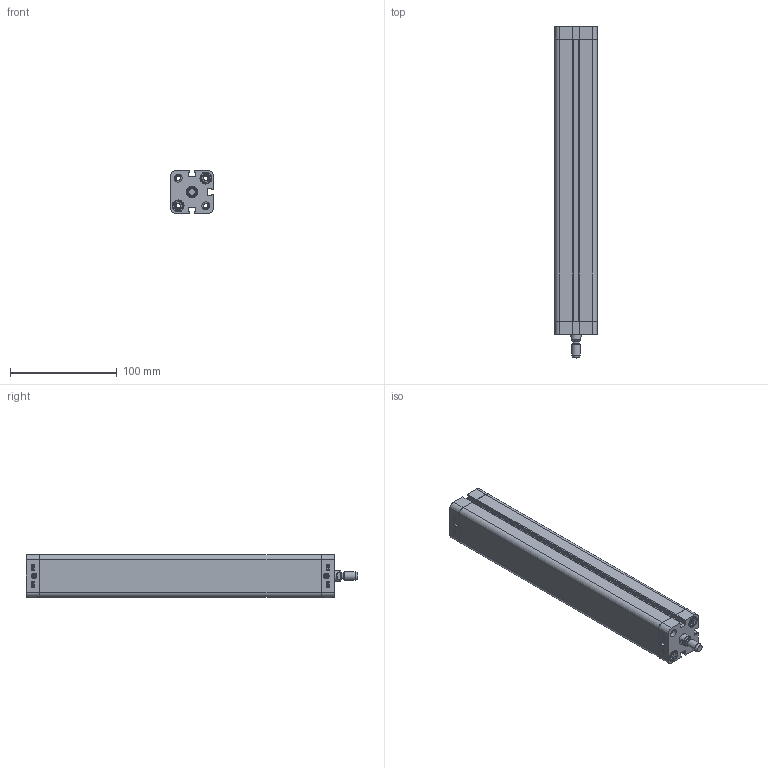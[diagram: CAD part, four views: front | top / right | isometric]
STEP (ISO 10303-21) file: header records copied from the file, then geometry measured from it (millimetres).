
FILE_DESCRIPTION((''),'2;1');
FILE_NAME('T:\Archivio Inventor\- CATALOGHI 2012\SERIE P - NUOVA\PDM\PDM025\PDM025.---.GS.M\PDM025.250.GS.M.stp','2013-01-31T08:10:08',('Administrator'),(''),'Autodesk Inventor 2012','Autodesk Inventor 2012','');
FILE_SCHEMA(('CONFIG_CONTROL_DESIGN'));
Length unit declared in the file: millimetre
Products named in the file (1): PDM025.250.GS.M
Bounding box: 40.3 x 311 x 40.3 mm (x, y, z)
Volume: 216204.6 mm3; surface area: 114136.5 mm2
Topology: 1 solids, 3 shells, 596 faces, 1552 edges, 1017 vertices
Faces by surface type: plane 312, cylinder 130, bspline 92, cone 50, torus 12
Full cylindrical faces by diameter (mm): 2 x2, 4.134 x10, 5.8 x1, 7.5 x4, 7.55 x2, 8 x9, 9 x1, 10 x1, 10.5 x1, 10.8 x4, 11.1 x4, 25 x1, 27.3 x1, 27.5 x1
Entity records: 18782 total; most frequent: CARTESIAN_POINT 4306, ORIENTED_EDGE 2888, DIRECTION 2606, EDGE_CURVE 1444, VERTEX_POINT 1002, VECTOR 898, LINE 898, AXIS2_PLACEMENT_3D 854
